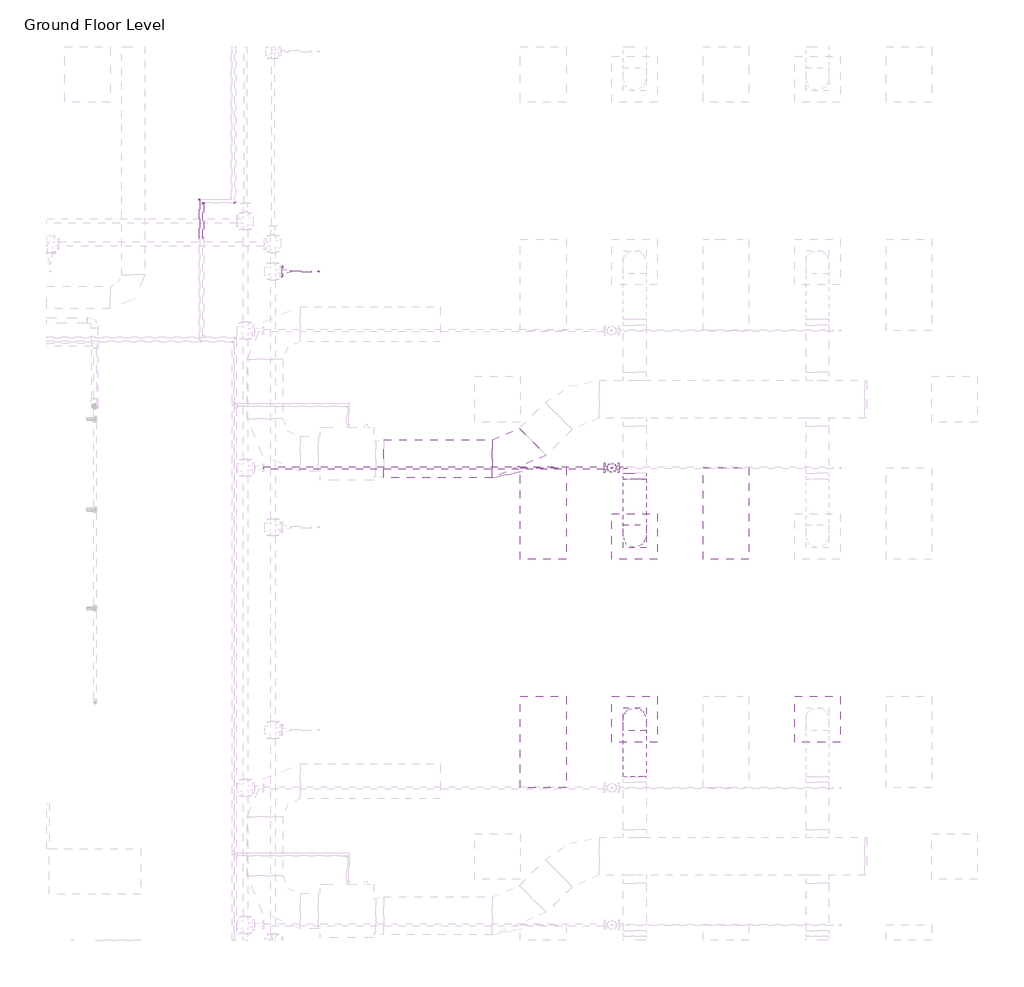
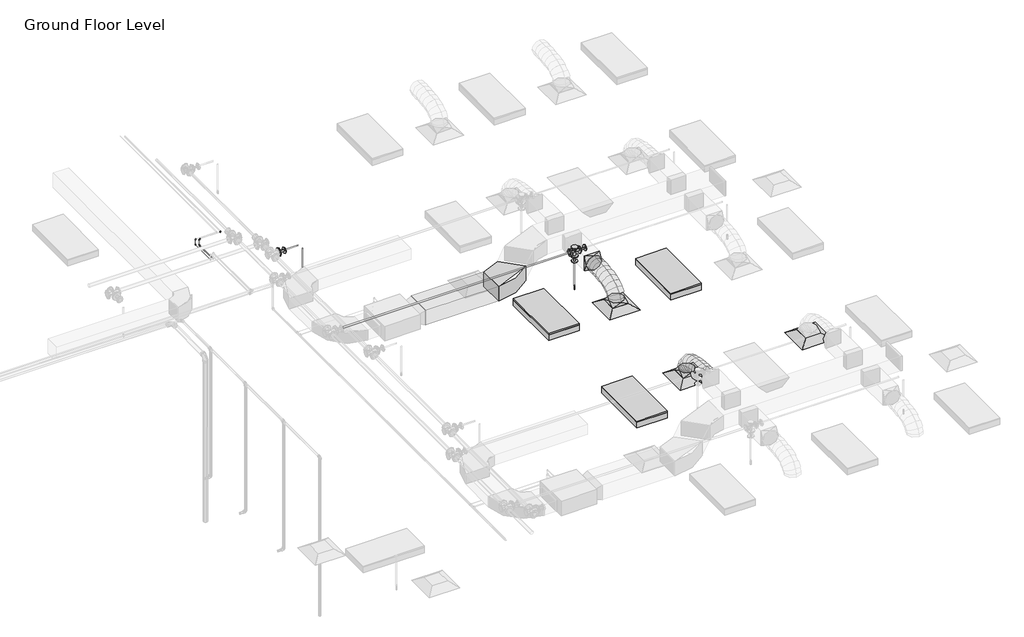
# One storey, part 68 of 74: 9 pipe fittings, 8 pipe segments, 4 duct fittings, 3 air terminals, 3 duct segments, 3 light fixtures, 2 fire suppression terminals.
"""IFC4 building model written with IfcOpenShell, lengths in millimetres."""

from ifc_helpers import new_model, si_unit, point, frame, frame_2d, origin, place, context, project, spatial, polyline, circle_curve, ellipse_curve, trimmed, segment, composite_curve, outline, extrude, transform, mapped, element, save
from ifc_brep_helpers import plane_surface, cylinder_surface, advanced_brep
from components import m_return_diffuser_600_x_600_face_300_x_300_connection_ff221211, m_rectangular_elbow_radius_1_5_w_acc56c25, m_rectangular_to_round_transition_angle_45_degree_641efff0, m_sprinkler_dry_pendent_hosted_15_mm_dry_pendent_9bda8e11, m_sprinkler_pendent_15_mm_pendent_06fcbd8e, m_troffer_light_parabolic_rectangular1_0600x1200mm_4_lamp_86473d4a, m_elbow_generic_standard_a088f956, m_elbow_generic_standard_2a704253, m_reducer_flanged_cs_class_150_standard_ccf252ad, m_reducer_flanged_cs_class_150_standard_9dfe9ec5, m_tee_round_base_flanged_cs_class_150_standard_7e5987a1

model = new_model("IFC4")

# Units and contexts
model_context = context("Model", 3, world=origin())
ifc_project = project(units=[si_unit("LENGTHUNIT", "METRE", prefix="MILLI")], contexts=[model_context])

# Site, building, storey
site = spatial("IfcSite", under=ifc_project)
building = spatial("IfcBuilding", under=site)
storey = spatial("IfcBuildingStorey", under=building, Name="Ground Floor Level", Elevation=900.0)

# Air terminals
placement = place(None, origin())
m_return_diffuser_600_x_600_face_300_x_300_connection_shape = m_return_diffuser_600_x_600_face_300_x_300_connection_ff221211(model_context)
element("IfcAirTerminal", 1, ObjectType="M_Supply Diffuser : 600 x 600 Face 300 x 300 Connection", at=placement, inside=storey, context=model_context, shape_type="MappedRepresentation", body=[
    mapped(m_return_diffuser_600_x_600_face_300_x_300_connection_shape, transform((10742.7672395, 10935.2153534, 3650.0), x_axis=(1.0, 0.0, 0.0), y_axis=(0.0, 1.0, 0.0), z_axis=(0.0, 0.0, 1.0))),
])
element("IfcAirTerminal", 2, ObjectType="M_Supply Diffuser : 600 x 600 Face 300 x 300 Connection", at=placement, inside=storey, context=model_context, shape_type="MappedRepresentation", body=[
    mapped(m_return_diffuser_600_x_600_face_300_x_300_connection_shape, transform((10742.7672395, 8535.2153534, 3650.0), x_axis=(1.0, 0.0, 0.0), y_axis=(0.0, 1.0, 0.0), z_axis=(0.0, 0.0, 1.0))),
])
element("IfcAirTerminal", 3, ObjectType="M_Supply Diffuser : 600 x 600 Face 300 x 300 Connection", at=placement, inside=storey, context=model_context, shape_type="MappedRepresentation", body=[
    mapped(m_return_diffuser_600_x_600_face_300_x_300_connection_shape, transform((13142.7672395, 8535.2153534, 3650.0), x_axis=(1.0, 0.0, 0.0), y_axis=(0.0, 1.0, 0.0), z_axis=(0.0, 0.0, 1.0))),
])

# Duct fittings
m_rectangular_elbow_radius_1_5_w_shape = m_rectangular_elbow_radius_1_5_w_acc56c25(model_context)
element("IfcDuctFitting", 4, ObjectType="M_Rectangular Elbow - Radius : 1.5 W", at=placement, inside=storey, context=model_context, shape_type="MappedRepresentation", body=[
    mapped(m_rectangular_elbow_radius_1_5_w_shape, transform((9187.6927358, 11956.1779527, 4100.0047224), x_axis=(0.9999999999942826, 0.0, -3.3815582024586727e-06), y_axis=(-9.063610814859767e-12, 0.9999999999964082, -2.680306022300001e-06), z_axis=(3.3815582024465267e-06, 2.6803060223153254e-06, 0.9999999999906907))),
])
m_rectangular_to_round_transition_angle_45_degree_shape = m_rectangular_to_round_transition_angle_45_degree_641efff0(model_context)
element("IfcDuctFitting", 5, ObjectType="M_Rectangular to Round Transition - Angle : 45 Degree", at=placement, inside=storey, context=model_context, shape_type="MappedRepresentation", body=[
    mapped(m_rectangular_to_round_transition_angle_45_degree_shape, transform((10742.7672395, 8535.2153534, 3751.6), x_axis=(0.0, 0.0, 1.0), y_axis=(-1.0, 0.0, 0.0), z_axis=(0.0, -1.0, 0.0))),
])
element("IfcDuctFitting", 6, ObjectType="M_Rectangular to Round Transition - Angle : 45 Degree", at=placement, inside=storey, context=model_context, shape_type="MappedRepresentation", body=[
    mapped(m_rectangular_to_round_transition_angle_45_degree_shape, transform((10742.7672395, 10935.2153534, 3751.6), x_axis=(0.0, 0.0, 1.0), y_axis=(-1.0, 0.0, 0.0), z_axis=(0.0, -1.0, 0.0))),
])
element("IfcDuctFitting", 7, ObjectType="M_Rectangular to Round Transition - Angle : 45 Degree", at=placement, inside=storey, context=model_context, shape_type="MappedRepresentation", body=[
    mapped(m_rectangular_to_round_transition_angle_45_degree_shape, transform((10742.7672395, 11762.5512847, 4100.0), x_axis=(0.0, -1.0, 0.0), y_axis=(1.0, 0.0, 0.0), z_axis=(0.0, 0.0, 1.0))),
])

# Duct segments
element("IfcDuctSegment", 8, ObjectType="Flex - Round", at=placement, inside=storey, context=model_context, shape_type="AdvancedBrep", body=[
    advanced_brep(
    [(10892.7672395, 8535.2153534, 3826.6), (10742.7672395, 8385.2153534, 3826.6), (10592.7672395, 8535.2153534, 3826.6), (10742.7672395, 8685.2153534, 3826.6), (10892.7672395, 8535.2153534, 3857.9377114), (10742.7672395, 8385.2153534, 3832.2944892), (10592.7672395, 8535.2153534, 3857.9377114), (10742.7672395, 8685.2153534, 3883.5809337), (10892.7672395, 8518.1994208, 3906.2505728), (10742.7672395, 8384.4614419, 3834.435049), (10592.7672395, 8518.1994208, 3906.2505728), (10742.7672395, 8651.9373998, 3978.0660967), (10892.7672395, 8471.0155405, 3968.7113131), (10742.7672395, 8366.8096412, 3857.8020236), (10592.7672395, 8471.0155405, 3968.7113131), (10742.7672395, 8575.2214397, 4079.6206026), (10892.7672395, 8399.4595883, 4016.0700639), (10742.7672395, 8330.5255327, 3881.8163788), (10592.7672395, 8399.4595883, 4016.0700639), (10742.7672395, 8468.3936439, 4150.3237489), (10892.7672395, 8309.3274403, 4050.4146682), (10742.7672395, 8265.7666771, 3906.4925606), (10592.7672395, 8309.3274403, 4050.4146682), (10742.7672395, 8352.8882035, 4194.3367758), (10892.7672395, 8206.4149725, 4073.8329691), (10742.7672395, 8179.8540485, 3926.0424542), (10592.7672395, 8206.4149725, 4073.8329691), (10742.7672395, 8232.9758965, 4221.6234841), (10892.7672395, 8096.5180607, 4088.4128097), (10742.7672395, 8081.3671584, 3939.1085462), (10592.7672395, 8096.5180607, 4088.4128097), (10742.7672395, 8111.6689631, 4237.7170733), (10892.7672395, 7985.4325811, 4096.242033), (10742.7672395, 7977.9272529, 3946.398915), (10592.7672395, 7985.4325811, 4096.242033), (10742.7672395, 7992.9379093, 4246.085151), (10892.7672395, 7878.9544096, 4099.4084821), (10742.7672395, 7876.2629165, 3949.4222102), (10592.7672395, 7878.9544096, 4099.4084821), (10742.7672395, 7881.6459027, 4249.394754), (10892.7672395, 7782.8794221, 4100.0), (10742.7672395, 7783.8029299, 4249.9971571), (10592.7672395, 7782.8794221, 4100.0), (10742.7672395, 7781.9559143, 3950.0028429)],
    [
        (0, 1, circle_curve(frame((10742.7672395, 8535.2153534, 3826.6), z_axis=(0.0, 0.0, -1.0), x_axis=(1.0, 0.0, 0.0)), 150.0)),
        (1, 2, circle_curve(frame((10742.7672395, 8535.2153534, 3826.6), z_axis=(0.0, 0.0, -1.0), x_axis=(1.0, 0.0, 0.0)), 150.0)),
        (2, 3, circle_curve(frame((10742.7672395, 8535.2153534, 3826.6), z_axis=(0.0, 0.0, -1.0), x_axis=(1.0, 0.0, 0.0)), 150.0)),
        (3, 0, circle_curve(frame((10742.7672395, 8535.2153534, 3826.6), z_axis=(0.0, 0.0, -1.0), x_axis=(1.0, 0.0, 0.0)), 150.0)),
        (0, 4),
        (4, 5, ellipse_curve(frame((10742.7672395, 8535.2153534, 3857.9377114), z_axis=(0.0, 0.16851014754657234, -0.9856999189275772), x_axis=(0.0, -0.9856999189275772, -0.1685101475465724)), 152.176131, 150.0)),
        (5, 1),
        (5, 6, ellipse_curve(frame((10742.7672395, 8535.2153534, 3857.9377114), z_axis=(0.0, 0.16851014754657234, -0.9856999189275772), x_axis=(0.0, -0.9856999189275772, -0.1685101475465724)), 152.176131, 150.0)),
        (6, 2),
        (6, 7, ellipse_curve(frame((10742.7672395, 8535.2153534, 3857.9377114), z_axis=(0.0, 0.16851014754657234, -0.9856999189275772), x_axis=(0.0, -0.9856999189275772, -0.1685101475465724)), 152.176131, 150.0)),
        (7, 3),
        (7, 4, ellipse_curve(frame((10742.7672395, 8535.2153534, 3857.9377114), z_axis=(0.0, 0.16851014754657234, -0.9856999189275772), x_axis=(0.0, -0.9856999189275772, -0.1685101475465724)), 152.176131, 150.0)),
        (4, 8),
        (8, 9, ellipse_curve(frame((10742.7672395, 8518.1994208, 3906.2505728), z_axis=(0.0, 0.4730922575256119, -0.8810128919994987), x_axis=(0.0, -0.8810128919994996, -0.47309225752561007)), 151.8002519, 150.0)),
        (9, 5),
        (9, 10, ellipse_curve(frame((10742.7672395, 8518.1994208, 3906.2505728), z_axis=(0.0, 0.4730922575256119, -0.8810128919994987), x_axis=(0.0, -0.8810128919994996, -0.47309225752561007)), 151.8002519, 150.0)),
        (10, 6),
        (10, 11, ellipse_curve(frame((10742.7672395, 8518.1994208, 3906.2505728), z_axis=(0.0, 0.4730922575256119, -0.8810128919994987), x_axis=(0.0, -0.8810128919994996, -0.47309225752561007)), 151.8002519, 150.0)),
        (11, 7),
        (11, 8, ellipse_curve(frame((10742.7672395, 8518.1994208, 3906.2505728), z_axis=(0.0, 0.4730922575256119, -0.8810128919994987), x_axis=(0.0, -0.8810128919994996, -0.47309225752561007)), 151.8002519, 150.0)),
        (8, 12),
        (12, 13, ellipse_curve(frame((10742.7672395, 8471.0155405, 3968.7113131), z_axis=(0.0, 0.7287877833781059, -0.6847396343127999), x_axis=(0.0, -0.6847396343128, -0.7287877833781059)), 152.1832446, 150.0)),
        (13, 9),
        (13, 14, ellipse_curve(frame((10742.7672395, 8471.0155405, 3968.7113131), z_axis=(0.0, 0.7287877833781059, -0.6847396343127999), x_axis=(0.0, -0.6847396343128, -0.7287877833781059)), 152.1832446, 150.0)),
        (14, 10),
        (14, 15, ellipse_curve(frame((10742.7672395, 8471.0155405, 3968.7113131), z_axis=(0.0, 0.7287877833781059, -0.6847396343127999), x_axis=(0.0, -0.6847396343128, -0.7287877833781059)), 152.1832446, 150.0)),
        (15, 11),
        (15, 12, ellipse_curve(frame((10742.7672395, 8471.0155405, 3968.7113131), z_axis=(0.0, 0.7287877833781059, -0.6847396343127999), x_axis=(0.0, -0.6847396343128, -0.7287877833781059)), 152.1832446, 150.0)),
        (12, 16),
        (16, 17, ellipse_curve(frame((10742.7672395, 8399.4595883, 4016.0700639), z_axis=(0.0, 0.8895859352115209, -0.4567678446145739), x_axis=(0.0, -0.4567678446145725, -0.8895859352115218)), 150.91705, 150.0)),
        (17, 13),
        (17, 18, ellipse_curve(frame((10742.7672395, 8399.4595883, 4016.0700639), z_axis=(0.0, 0.8895859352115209, -0.4567678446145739), x_axis=(0.0, -0.4567678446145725, -0.8895859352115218)), 150.91705, 150.0)),
        (18, 14),
        (18, 19, ellipse_curve(frame((10742.7672395, 8399.4595883, 4016.0700639), z_axis=(0.0, 0.8895859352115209, -0.4567678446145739), x_axis=(0.0, -0.4567678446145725, -0.8895859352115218)), 150.91705, 150.0)),
        (19, 15),
        (19, 16, ellipse_curve(frame((10742.7672395, 8399.4595883, 4016.0700639), z_axis=(0.0, 0.8895859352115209, -0.4567678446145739), x_axis=(0.0, -0.4567678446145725, -0.8895859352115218)), 150.91705, 150.0)),
        (16, 20),
        (20, 21, ellipse_curve(frame((10742.7672395, 8309.3274403, 4050.4146682), z_axis=(0.0, 0.9571203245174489, -0.2896906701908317), x_axis=(0.0, -0.2896906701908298, -0.9571203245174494)), 150.369921, 150.0)),
        (21, 17),
        (21, 22, ellipse_curve(frame((10742.7672395, 8309.3274403, 4050.4146682), z_axis=(0.0, 0.9571203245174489, -0.2896906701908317), x_axis=(0.0, -0.2896906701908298, -0.9571203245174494)), 150.369921, 150.0)),
        (22, 18),
        (22, 23, ellipse_curve(frame((10742.7672395, 8309.3274403, 4050.4146682), z_axis=(0.0, 0.9571203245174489, -0.2896906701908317), x_axis=(0.0, -0.2896906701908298, -0.9571203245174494)), 150.369921, 150.0)),
        (23, 19),
        (23, 20, ellipse_curve(frame((10742.7672395, 8309.3274403, 4050.4146682), z_axis=(0.0, 0.9571203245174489, -0.2896906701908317), x_axis=(0.0, -0.2896906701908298, -0.9571203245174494)), 150.369921, 150.0)),
        (20, 24),
        (24, 25, ellipse_curve(frame((10742.7672395, 8206.4149725, 4073.8329691), z_axis=(0.0, 0.9842313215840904, -0.1768861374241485), x_axis=(0.0, -0.17688613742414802, -0.9842313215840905)), 150.1583131, 150.0)),
        (25, 21),
        (25, 26, ellipse_curve(frame((10742.7672395, 8206.4149725, 4073.8329691), z_axis=(0.0, 0.9842313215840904, -0.1768861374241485), x_axis=(0.0, -0.17688613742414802, -0.9842313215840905)), 150.1583131, 150.0)),
        (26, 22),
        (26, 27, ellipse_curve(frame((10742.7672395, 8206.4149725, 4073.8329691), z_axis=(0.0, 0.9842313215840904, -0.1768861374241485), x_axis=(0.0, -0.17688613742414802, -0.9842313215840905)), 150.1583131, 150.0)),
        (27, 23),
        (27, 24, ellipse_curve(frame((10742.7672395, 8206.4149725, 4073.8329691), z_axis=(0.0, 0.9842313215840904, -0.1768861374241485), x_axis=(0.0, -0.17688613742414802, -0.9842313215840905)), 150.1583131, 150.0)),
        (24, 28),
        (28, 29, ellipse_curve(frame((10742.7672395, 8096.5180607, 4088.4128097), z_axis=(0.0, 0.9948906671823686, -0.10095821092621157), x_axis=(0.0, -0.100958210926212, -0.9948906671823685)), 150.0710264, 150.0)),
        (29, 25),
        (29, 30, ellipse_curve(frame((10742.7672395, 8096.5180607, 4088.4128097), z_axis=(0.0, 0.9948906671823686, -0.10095821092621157), x_axis=(0.0, -0.100958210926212, -0.9948906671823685)), 150.0710264, 150.0)),
        (30, 26),
        (30, 31, ellipse_curve(frame((10742.7672395, 8096.5180607, 4088.4128097), z_axis=(0.0, 0.9948906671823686, -0.10095821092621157), x_axis=(0.0, -0.100958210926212, -0.9948906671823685)), 150.0710264, 150.0)),
        (31, 27),
        (31, 28, ellipse_curve(frame((10742.7672395, 8096.5180607, 4088.4128097), z_axis=(0.0, 0.9948906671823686, -0.10095821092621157), x_axis=(0.0, -0.100958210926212, -0.9948906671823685)), 150.0710264, 150.0)),
        (28, 32),
        (32, 33, ellipse_curve(frame((10742.7672395, 7985.4325811, 4096.242033), z_axis=(0.0, 0.9987479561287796, -0.05002519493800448), x_axis=(0.0, -0.050025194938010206, -0.9987479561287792)), 150.0309634, 150.0)),
        (33, 29),
        (33, 34, ellipse_curve(frame((10742.7672395, 7985.4325811, 4096.242033), z_axis=(0.0, 0.9987479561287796, -0.05002519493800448), x_axis=(0.0, -0.050025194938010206, -0.9987479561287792)), 150.0309634, 150.0)),
        (34, 30),
        (34, 35, ellipse_curve(frame((10742.7672395, 7985.4325811, 4096.242033), z_axis=(0.0, 0.9987479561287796, -0.05002519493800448), x_axis=(0.0, -0.050025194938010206, -0.9987479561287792)), 150.0309634, 150.0)),
        (35, 31),
        (35, 32, ellipse_curve(frame((10742.7672395, 7985.4325811, 4096.242033), z_axis=(0.0, 0.9987479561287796, -0.05002519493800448), x_axis=(0.0, -0.050025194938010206, -0.9987479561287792)), 150.0309634, 150.0)),
        (32, 36),
        (36, 37, ellipse_curve(frame((10742.7672395, 7878.9544096, 4099.4084821), z_axis=(0.0, 0.9998390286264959, -0.017942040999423), x_axis=(0.0, -0.01794204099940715, -0.9998390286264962)), 150.0104193, 150.0)),
        (37, 33),
        (37, 38, ellipse_curve(frame((10742.7672395, 7878.9544096, 4099.4084821), z_axis=(0.0, 0.9998390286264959, -0.017942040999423), x_axis=(0.0, -0.01794204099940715, -0.9998390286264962)), 150.0104193, 150.0)),
        (38, 34),
        (38, 39, ellipse_curve(frame((10742.7672395, 7878.9544096, 4099.4084821), z_axis=(0.0, 0.9998390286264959, -0.017942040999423), x_axis=(0.0, -0.01794204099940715, -0.9998390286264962)), 150.0104193, 150.0)),
        (39, 35),
        (39, 36, ellipse_curve(frame((10742.7672395, 7878.9544096, 4099.4084821), z_axis=(0.0, 0.9998390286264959, -0.017942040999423), x_axis=(0.0, -0.01794204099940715, -0.9998390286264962)), 150.0104193, 150.0)),
        (40, 41, circle_curve(frame((10742.7672395, 7782.8794221, 4100.0), z_axis=(0.0, -0.9999810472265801, 0.006156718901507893), x_axis=(1.0, 0.0, 0.0)), 150.0)),
        (41, 42, circle_curve(frame((10742.7672395, 7782.8794221, 4100.0), z_axis=(0.0, -0.9999810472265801, 0.006156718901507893), x_axis=(1.0, 0.0, 0.0)), 150.0)),
        (42, 43, circle_curve(frame((10742.7672395, 7782.8794221, 4100.0), z_axis=(0.0, -0.9999810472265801, 0.006156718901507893), x_axis=(1.0, 0.0, 0.0)), 150.0)),
        (43, 40, circle_curve(frame((10742.7672395, 7782.8794221, 4100.0), z_axis=(0.0, -0.9999810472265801, 0.006156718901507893), x_axis=(1.0, 0.0, 0.0)), 150.0)),
        (36, 40),
        (43, 37),
        (42, 38),
        (41, 39),
    ],
    [
        plane_surface(frame((10742.7672395, 8385.2153534, 3826.6), z_axis=(0.0, 0.0, -1.0), x_axis=(1.0, 0.0, 0.0))),
        cylinder_surface(frame((10742.7672395, 8535.2153534, 3826.6), z_axis=(0.0, 0.0, -1.0), x_axis=(1.0, 0.0, 0.0)), 150.0),
        cylinder_surface(frame((10742.7672395, 8535.2153534, 3857.9377114), z_axis=(0.0, 0.3322008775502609, -0.9432086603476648), x_axis=(1.0, 0.0, 0.0)), 150.0),
        cylinder_surface(frame((10742.7672395, 8518.1994208, 3906.2505728), z_axis=(0.0, 0.6027625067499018, -0.7979206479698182), x_axis=(1.0, 0.0, 0.0)), 150.0),
        cylinder_surface(frame((10742.7672395, 8471.0155405, 3968.7113131), z_axis=(0.0, 0.8339024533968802, -0.5519118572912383), x_axis=(1.0, 0.0, 0.0)), 150.0),
        cylinder_surface(frame((10742.7672395, 8399.4595883, 4016.0700639), z_axis=(0.0, 0.934458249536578, -0.35607271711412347), x_axis=(1.0, 0.0, 0.0)), 150.0),
        cylinder_surface(frame((10742.7672395, 8309.3274403, 4050.4146682), z_axis=(0.0, 0.9750732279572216, -0.2218833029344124), x_axis=(1.0, 0.0, 0.0)), 150.0),
        cylinder_surface(frame((10742.7672395, 8206.4149725, 4073.8329691), z_axis=(0.0, 0.9913140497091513, -0.13151598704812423), x_axis=(1.0, 0.0, 0.0)), 150.0),
        cylinder_surface(frame((10742.7672395, 8096.5180607, 4088.4128097), z_axis=(0.0, 0.9975255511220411, -0.07030487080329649), x_axis=(1.0, 0.0, 0.0)), 150.0),
        cylinder_surface(frame((10742.7672395, 7985.4325811, 4096.242033), z_axis=(0.0, 0.9995581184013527, -0.029724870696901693), x_axis=(1.0, 0.0, 0.0)), 150.0),
        plane_surface(frame((10742.7672395, 7781.9559143, 3950.0028429), z_axis=(0.0, -0.9999810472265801, 0.0061567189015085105), x_axis=(1.0, 0.0, 0.0))),
        cylinder_surface(frame((10742.7672395, 7878.9544096, 4099.4084821), z_axis=(0.0, 0.9999810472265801, -0.006156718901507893), x_axis=(1.0, 0.0, 0.0)), 150.0),
    ],
    [
        (0, [[1, 2, 3, 4]]),
        (1, [[-1, 5, 6, 7]]),
        (1, [[-2, -7, 8, 9]]),
        (1, [[-3, -9, 10, 11]]),
        (1, [[-4, -11, 12, -5]]),
        (2, [[-6, 13, 14, 15]]),
        (2, [[-8, -15, 16, 17]]),
        (2, [[-10, -17, 18, 19]]),
        (2, [[-12, -19, 20, -13]]),
        (3, [[-14, 21, 22, 23]]),
        (3, [[-16, -23, 24, 25]]),
        (3, [[-18, -25, 26, 27]]),
        (3, [[-20, -27, 28, -21]]),
        (4, [[-22, 29, 30, 31]]),
        (4, [[-24, -31, 32, 33]]),
        (4, [[-26, -33, 34, 35]]),
        (4, [[-28, -35, 36, -29]]),
        (5, [[-30, 37, 38, 39]]),
        (5, [[-32, -39, 40, 41]]),
        (5, [[-34, -41, 42, 43]]),
        (5, [[-36, -43, 44, -37]]),
        (6, [[-38, 45, 46, 47]]),
        (6, [[-40, -47, 48, 49]]),
        (6, [[-42, -49, 50, 51]]),
        (6, [[-44, -51, 52, -45]]),
        (7, [[-46, 53, 54, 55]]),
        (7, [[-48, -55, 56, 57]]),
        (7, [[-50, -57, 58, 59]]),
        (7, [[-52, -59, 60, -53]]),
        (8, [[-54, 61, 62, 63]]),
        (8, [[-56, -63, 64, 65]]),
        (8, [[-58, -65, 66, 67]]),
        (8, [[-60, -67, 68, -61]]),
        (9, [[-62, 69, 70, 71]]),
        (9, [[-64, -71, 72, 73]]),
        (9, [[-66, -73, 74, 75]]),
        (9, [[-68, -75, 76, -69]]),
        (10, [[77, 78, 79, 80]]),
        (11, [[-70, 81, -80, 82]]),
        (11, [[-72, -82, -79, 83]]),
        (11, [[-74, -83, -78, 84]]),
        (11, [[-76, -84, -77, -81]]),
    ],
),
])
element("IfcDuctSegment", 9, ObjectType="Flex - Round", at=placement, inside=storey, context=model_context, shape_type="AdvancedBrep", body=[
    advanced_brep(
    [(10892.7672395, 10935.2153534, 3826.6), (10742.7672395, 10785.2153534, 3826.6), (10592.7672395, 10935.2153534, 3826.6), (10742.7672395, 11085.2153534, 3826.6), (10892.7672395, 10935.2153534, 3857.9377114), (10742.7672395, 10785.2153534, 3883.5809337), (10592.7672395, 10935.2153534, 3857.9377114), (10742.7672395, 11085.2153534, 3832.2944892), (10892.7672395, 10952.2312859, 3906.2505728), (10742.7672395, 10818.493307, 3978.0660967), (10592.7672395, 10952.2312859, 3906.2505728), (10742.7672395, 11085.9692649, 3834.435049), (10892.7672395, 10999.4151663, 3968.7113131), (10742.7672395, 10895.209267, 4079.6206026), (10592.7672395, 10999.4151663, 3968.7113131), (10742.7672395, 11103.6210655, 3857.8020236), (10892.7672395, 11070.9711184, 4016.0700639), (10742.7672395, 11002.0370628, 4150.3237489), (10592.7672395, 11070.9711184, 4016.0700639), (10742.7672395, 11139.9051741, 3881.8163788), (10892.7672395, 11161.1032664, 4050.4146682), (10742.7672395, 11117.5425033, 4194.3367758), (10592.7672395, 11161.1032664, 4050.4146682), (10742.7672395, 11204.6640296, 3906.4925606), (10892.7672395, 11264.0157343, 4073.8329691), (10742.7672395, 11237.4548103, 4221.6234841), (10592.7672395, 11264.0157343, 4073.8329691), (10742.7672395, 11290.5766583, 3926.0424542), (10892.7672395, 11373.912646, 4088.4128097), (10742.7672395, 11358.7617437, 4237.7170733), (10592.7672395, 11373.912646, 4088.4128097), (10742.7672395, 11389.0635483, 3939.1085462), (10892.7672395, 11484.9981256, 4096.242033), (10742.7672395, 11477.4927975, 4246.085151), (10592.7672395, 11484.9981256, 4096.242033), (10742.7672395, 11492.5034538, 3946.398915), (10892.7672395, 11591.4762972, 4099.4084821), (10742.7672395, 11588.7848041, 4249.394754), (10592.7672395, 11591.4762972, 4099.4084821), (10742.7672395, 11594.1677903, 3949.4222102), (10892.7672395, 11687.5512847, 4100.0), (10742.7672395, 11688.4747925, 3950.0028429), (10592.7672395, 11687.5512847, 4100.0), (10742.7672395, 11686.6277768, 4249.9971571)],
    [
        (0, 1, circle_curve(frame((10742.7672395, 10935.2153534, 3826.6), z_axis=(0.0, 0.0, -1.0), x_axis=(1.0, 0.0, 0.0)), 150.0)),
        (1, 2, circle_curve(frame((10742.7672395, 10935.2153534, 3826.6), z_axis=(0.0, 0.0, -1.0), x_axis=(1.0, 0.0, 0.0)), 150.0)),
        (2, 3, circle_curve(frame((10742.7672395, 10935.2153534, 3826.6), z_axis=(0.0, 0.0, -1.0), x_axis=(1.0, 0.0, 0.0)), 150.0)),
        (3, 0, circle_curve(frame((10742.7672395, 10935.2153534, 3826.6), z_axis=(0.0, 0.0, -1.0), x_axis=(1.0, 0.0, 0.0)), 150.0)),
        (0, 4),
        (4, 5, ellipse_curve(frame((10742.7672395, 10935.2153534, 3857.9377114), z_axis=(0.0, -0.16851014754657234, -0.9856999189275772), x_axis=(0.0, 0.9856999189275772, -0.1685101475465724)), 152.176131, 150.0)),
        (5, 1),
        (5, 6, ellipse_curve(frame((10742.7672395, 10935.2153534, 3857.9377114), z_axis=(0.0, -0.16851014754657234, -0.9856999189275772), x_axis=(0.0, 0.9856999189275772, -0.1685101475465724)), 152.176131, 150.0)),
        (6, 2),
        (6, 7, ellipse_curve(frame((10742.7672395, 10935.2153534, 3857.9377114), z_axis=(0.0, -0.16851014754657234, -0.9856999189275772), x_axis=(0.0, 0.9856999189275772, -0.1685101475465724)), 152.176131, 150.0)),
        (7, 3),
        (7, 4, ellipse_curve(frame((10742.7672395, 10935.2153534, 3857.9377114), z_axis=(0.0, -0.16851014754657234, -0.9856999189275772), x_axis=(0.0, 0.9856999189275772, -0.1685101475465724)), 152.176131, 150.0)),
        (4, 8),
        (8, 9, ellipse_curve(frame((10742.7672395, 10952.2312859, 3906.2505728), z_axis=(0.0, -0.47309225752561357, -0.8810128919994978), x_axis=(0.0, 0.8810128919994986, -0.47309225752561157)), 151.8002519, 150.0)),
        (9, 5),
        (9, 10, ellipse_curve(frame((10742.7672395, 10952.2312859, 3906.2505728), z_axis=(0.0, -0.47309225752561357, -0.8810128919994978), x_axis=(0.0, 0.8810128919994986, -0.47309225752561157)), 151.8002519, 150.0)),
        (10, 6),
        (10, 11, ellipse_curve(frame((10742.7672395, 10952.2312859, 3906.2505728), z_axis=(0.0, -0.47309225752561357, -0.8810128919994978), x_axis=(0.0, 0.8810128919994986, -0.47309225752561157)), 151.8002519, 150.0)),
        (11, 7),
        (11, 8, ellipse_curve(frame((10742.7672395, 10952.2312859, 3906.2505728), z_axis=(0.0, -0.47309225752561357, -0.8810128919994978), x_axis=(0.0, 0.8810128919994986, -0.47309225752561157)), 151.8002519, 150.0)),
        (8, 12),
        (12, 13, ellipse_curve(frame((10742.7672395, 10999.4151663, 3968.7113131), z_axis=(0.0, -0.7287877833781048, -0.6847396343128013), x_axis=(0.0, 0.6847396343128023, -0.7287877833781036)), 152.1832446, 150.0)),
        (13, 9),
        (13, 14, ellipse_curve(frame((10742.7672395, 10999.4151663, 3968.7113131), z_axis=(0.0, -0.7287877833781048, -0.6847396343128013), x_axis=(0.0, 0.6847396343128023, -0.7287877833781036)), 152.1832446, 150.0)),
        (14, 10),
        (14, 15, ellipse_curve(frame((10742.7672395, 10999.4151663, 3968.7113131), z_axis=(0.0, -0.7287877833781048, -0.6847396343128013), x_axis=(0.0, 0.6847396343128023, -0.7287877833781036)), 152.1832446, 150.0)),
        (15, 11),
        (15, 12, ellipse_curve(frame((10742.7672395, 10999.4151663, 3968.7113131), z_axis=(0.0, -0.7287877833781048, -0.6847396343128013), x_axis=(0.0, 0.6847396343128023, -0.7287877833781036)), 152.1832446, 150.0)),
        (12, 16),
        (16, 17, ellipse_curve(frame((10742.7672395, 11070.9711184, 4016.0700639), z_axis=(0.0, -0.8895859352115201, -0.45676784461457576), x_axis=(0.0, 0.45676784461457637, -0.8895859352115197)), 150.91705, 150.0)),
        (17, 13),
        (17, 18, ellipse_curve(frame((10742.7672395, 11070.9711184, 4016.0700639), z_axis=(0.0, -0.8895859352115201, -0.45676784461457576), x_axis=(0.0, 0.45676784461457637, -0.8895859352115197)), 150.91705, 150.0)),
        (18, 14),
        (18, 19, ellipse_curve(frame((10742.7672395, 11070.9711184, 4016.0700639), z_axis=(0.0, -0.8895859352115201, -0.45676784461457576), x_axis=(0.0, 0.45676784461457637, -0.8895859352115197)), 150.91705, 150.0)),
        (19, 15),
        (19, 16, ellipse_curve(frame((10742.7672395, 11070.9711184, 4016.0700639), z_axis=(0.0, -0.8895859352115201, -0.45676784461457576), x_axis=(0.0, 0.45676784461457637, -0.8895859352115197)), 150.91705, 150.0)),
        (16, 20),
        (20, 21, ellipse_curve(frame((10742.7672395, 11161.1032664, 4050.4146682), z_axis=(0.0, -0.9571203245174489, -0.2896906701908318), x_axis=(0.0, 0.28969067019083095, -0.9571203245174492)), 150.369921, 150.0)),
        (21, 17),
        (21, 22, ellipse_curve(frame((10742.7672395, 11161.1032664, 4050.4146682), z_axis=(0.0, -0.9571203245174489, -0.2896906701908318), x_axis=(0.0, 0.28969067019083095, -0.9571203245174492)), 150.369921, 150.0)),
        (22, 18),
        (22, 23, ellipse_curve(frame((10742.7672395, 11161.1032664, 4050.4146682), z_axis=(0.0, -0.9571203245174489, -0.2896906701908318), x_axis=(0.0, 0.28969067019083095, -0.9571203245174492)), 150.369921, 150.0)),
        (23, 19),
        (23, 20, ellipse_curve(frame((10742.7672395, 11161.1032664, 4050.4146682), z_axis=(0.0, -0.9571203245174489, -0.2896906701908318), x_axis=(0.0, 0.28969067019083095, -0.9571203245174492)), 150.369921, 150.0)),
        (20, 24),
        (24, 25, ellipse_curve(frame((10742.7672395, 11264.0157343, 4073.8329691), z_axis=(0.0, -0.9842313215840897, -0.17688613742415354), x_axis=(0.0, 0.1768861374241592, -0.9842313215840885)), 150.1583131, 150.0)),
        (25, 21),
        (25, 26, ellipse_curve(frame((10742.7672395, 11264.0157343, 4073.8329691), z_axis=(0.0, -0.9842313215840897, -0.17688613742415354), x_axis=(0.0, 0.1768861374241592, -0.9842313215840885)), 150.1583131, 150.0)),
        (26, 22),
        (26, 27, ellipse_curve(frame((10742.7672395, 11264.0157343, 4073.8329691), z_axis=(0.0, -0.9842313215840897, -0.17688613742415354), x_axis=(0.0, 0.1768861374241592, -0.9842313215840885)), 150.1583131, 150.0)),
        (27, 23),
        (27, 24, ellipse_curve(frame((10742.7672395, 11264.0157343, 4073.8329691), z_axis=(0.0, -0.9842313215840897, -0.17688613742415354), x_axis=(0.0, 0.1768861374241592, -0.9842313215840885)), 150.1583131, 150.0)),
        (24, 28),
        (28, 29, ellipse_curve(frame((10742.7672395, 11373.912646, 4088.4128097), z_axis=(0.0, -0.9948906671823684, -0.10095821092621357), x_axis=(0.0, 0.10095821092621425, -0.9948906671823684)), 150.0710264, 150.0)),
        (29, 25),
        (29, 30, ellipse_curve(frame((10742.7672395, 11373.912646, 4088.4128097), z_axis=(0.0, -0.9948906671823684, -0.10095821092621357), x_axis=(0.0, 0.10095821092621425, -0.9948906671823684)), 150.0710264, 150.0)),
        (30, 26),
        (30, 31, ellipse_curve(frame((10742.7672395, 11373.912646, 4088.4128097), z_axis=(0.0, -0.9948906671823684, -0.10095821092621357), x_axis=(0.0, 0.10095821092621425, -0.9948906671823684)), 150.0710264, 150.0)),
        (31, 27),
        (31, 28, ellipse_curve(frame((10742.7672395, 11373.912646, 4088.4128097), z_axis=(0.0, -0.9948906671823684, -0.10095821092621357), x_axis=(0.0, 0.10095821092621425, -0.9948906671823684)), 150.0710264, 150.0)),
        (28, 32),
        (32, 33, ellipse_curve(frame((10742.7672395, 11484.9981256, 4096.242033), z_axis=(0.0, -0.9987479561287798, -0.05002519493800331), x_axis=(0.0, 0.050025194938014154, -0.9987479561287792)), 150.0309634, 150.0)),
        (33, 29),
        (33, 34, ellipse_curve(frame((10742.7672395, 11484.9981256, 4096.242033), z_axis=(0.0, -0.9987479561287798, -0.05002519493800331), x_axis=(0.0, 0.050025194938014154, -0.9987479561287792)), 150.0309634, 150.0)),
        (34, 30),
        (34, 35, ellipse_curve(frame((10742.7672395, 11484.9981256, 4096.242033), z_axis=(0.0, -0.9987479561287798, -0.05002519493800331), x_axis=(0.0, 0.050025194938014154, -0.9987479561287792)), 150.0309634, 150.0)),
        (35, 31),
        (35, 32, ellipse_curve(frame((10742.7672395, 11484.9981256, 4096.242033), z_axis=(0.0, -0.9987479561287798, -0.05002519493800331), x_axis=(0.0, 0.050025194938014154, -0.9987479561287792)), 150.0309634, 150.0)),
        (32, 36),
        (36, 37, ellipse_curve(frame((10742.7672395, 11591.4762972, 4099.4084821), z_axis=(0.0, -0.9998390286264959, -0.01794204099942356), x_axis=(-1.8187895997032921e-12, 0.017942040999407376, -0.9998390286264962)), 150.0104193, 150.0)),
        (37, 33),
        (37, 38, ellipse_curve(frame((10742.7672395, 11591.4762972, 4099.4084821), z_axis=(0.0, -0.9998390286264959, -0.01794204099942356), x_axis=(-1.8187895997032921e-12, 0.017942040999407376, -0.9998390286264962)), 150.0104193, 150.0)),
        (38, 34),
        (38, 39, ellipse_curve(frame((10742.7672395, 11591.4762972, 4099.4084821), z_axis=(0.0, -0.9998390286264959, -0.01794204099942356), x_axis=(-1.8187895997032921e-12, 0.017942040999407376, -0.9998390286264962)), 150.0104193, 150.0)),
        (39, 35),
        (39, 36, ellipse_curve(frame((10742.7672395, 11591.4762972, 4099.4084821), z_axis=(0.0, -0.9998390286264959, -0.01794204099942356), x_axis=(-1.8187895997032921e-12, 0.017942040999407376, -0.9998390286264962)), 150.0104193, 150.0)),
        (40, 41, circle_curve(frame((10742.7672395, 11687.5512847, 4100.0), z_axis=(0.0, 0.9999810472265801, 0.006156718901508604), x_axis=(1.0, 0.0, 0.0)), 150.0)),
        (41, 42, circle_curve(frame((10742.7672395, 11687.5512847, 4100.0), z_axis=(0.0, 0.9999810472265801, 0.006156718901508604), x_axis=(1.0, 0.0, 0.0)), 150.0)),
        (42, 43, circle_curve(frame((10742.7672395, 11687.5512847, 4100.0), z_axis=(0.0, 0.9999810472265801, 0.006156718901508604), x_axis=(1.0, 0.0, 0.0)), 150.0)),
        (43, 40, circle_curve(frame((10742.7672395, 11687.5512847, 4100.0), z_axis=(0.0, 0.9999810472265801, 0.006156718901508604), x_axis=(1.0, 0.0, 0.0)), 150.0)),
        (36, 40),
        (43, 37),
        (42, 38),
        (41, 39),
    ],
    [
        plane_surface(frame((10742.7672395, 10785.2153534, 3826.6), z_axis=(0.0, 0.0, -1.0), x_axis=(1.0, 0.0, 0.0))),
        cylinder_surface(frame((10742.7672395, 10935.2153534, 3826.6), z_axis=(0.0, 0.0, -1.0), x_axis=(1.0, 0.0, 0.0)), 150.0),
        cylinder_surface(frame((10742.7672395, 10935.2153534, 3857.9377114), z_axis=(0.0, -0.3322008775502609, -0.9432086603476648), x_axis=(1.0, 0.0, 0.0)), 150.0),
        cylinder_surface(frame((10742.7672395, 10952.2312859, 3906.2505728), z_axis=(0.0, -0.6027625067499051, -0.7979206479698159), x_axis=(1.0, 0.0, 0.0)), 150.0),
        cylinder_surface(frame((10742.7672395, 10999.4151663, 3968.7113131), z_axis=(0.0, -0.833902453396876, -0.5519118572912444), x_axis=(1.0, 0.0, 0.0)), 150.0),
        cylinder_surface(frame((10742.7672395, 11070.9711184, 4016.0700639), z_axis=(0.0, -0.9344582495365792, -0.35607271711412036), x_axis=(1.0, 0.0, 0.0)), 150.0),
        cylinder_surface(frame((10742.7672395, 11161.1032664, 4050.4146682), z_axis=(0.0, -0.9750732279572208, -0.22188330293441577), x_axis=(1.0, 0.0, 0.0)), 150.0),
        cylinder_surface(frame((10742.7672395, 11264.0157343, 4073.8329691), z_axis=(0.0, -0.9913140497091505, -0.131515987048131), x_axis=(1.0, 0.0, 0.0)), 150.0),
        cylinder_surface(frame((10742.7672395, 11373.912646, 4088.4128097), z_axis=(0.0, -0.9975255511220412, -0.07030487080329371), x_axis=(1.0, 0.0, 0.0)), 150.0),
        cylinder_surface(frame((10742.7672395, 11484.9981256, 4096.242033), z_axis=(0.0, -0.9995581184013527, -0.029724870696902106), x_axis=(1.0, 0.0, 0.0)), 150.0),
        plane_surface(frame((10742.7672395, 11686.6277768, 4249.9971571), z_axis=(0.0, 0.9999810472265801, 0.0061567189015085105), x_axis=(1.0, 0.0, 0.0))),
        cylinder_surface(frame((10742.7672395, 11591.4762972, 4099.4084821), z_axis=(0.0, -0.9999810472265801, -0.006156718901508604), x_axis=(1.0, 0.0, 0.0)), 150.0),
    ],
    [
        (0, [[1, 2, 3, 4]]),
        (1, [[-1, 5, 6, 7]]),
        (1, [[-2, -7, 8, 9]]),
        (1, [[-3, -9, 10, 11]]),
        (1, [[-4, -11, 12, -5]]),
        (2, [[-6, 13, 14, 15]]),
        (2, [[-8, -15, 16, 17]]),
        (2, [[-10, -17, 18, 19]]),
        (2, [[-12, -19, 20, -13]]),
        (3, [[-14, 21, 22, 23]]),
        (3, [[-16, -23, 24, 25]]),
        (3, [[-18, -25, 26, 27]]),
        (3, [[-20, -27, 28, -21]]),
        (4, [[-22, 29, 30, 31]]),
        (4, [[-24, -31, 32, 33]]),
        (4, [[-26, -33, 34, 35]]),
        (4, [[-28, -35, 36, -29]]),
        (5, [[-30, 37, 38, 39]]),
        (5, [[-32, -39, 40, 41]]),
        (5, [[-34, -41, 42, 43]]),
        (5, [[-36, -43, 44, -37]]),
        (6, [[-38, 45, 46, 47]]),
        (6, [[-40, -47, 48, 49]]),
        (6, [[-42, -49, 50, 51]]),
        (6, [[-44, -51, 52, -45]]),
        (7, [[-46, 53, 54, 55]]),
        (7, [[-48, -55, 56, 57]]),
        (7, [[-50, -57, 58, 59]]),
        (7, [[-52, -59, 60, -53]]),
        (8, [[-54, 61, 62, 63]]),
        (8, [[-56, -63, 64, 65]]),
        (8, [[-58, -65, 66, 67]]),
        (8, [[-60, -67, 68, -61]]),
        (9, [[-62, 69, 70, 71]]),
        (9, [[-64, -71, 72, 73]]),
        (9, [[-66, -73, 74, 75]]),
        (9, [[-68, -75, 76, -69]]),
        (10, [[77, 78, 79, 80]]),
        (11, [[-70, 81, -80, 82]]),
        (11, [[-72, -82, -79, 83]]),
        (11, [[-74, -83, -78, 84]]),
        (11, [[-76, -84, -77, -81]]),
    ],
),
])
element("IfcDuctSegment", 10, ObjectType="Radius Elbows / Taps", at=placement, inside=storey, context=model_context, shape_type="SweptSolid", body=[
    extrude(outline(polyline([(7447.693178, 11706.1779527), (7447.693178, 12206.1779527), (8877.032564, 12206.1779527), (8877.032564, 11706.1779527), (7447.693178, 11706.1779527)])), frame((0.0, 0.0, 3950.0057729), z_axis=(0.0, 0.0, 1.0), x_axis=(1.0, 0.0, 0.0)), (0.0, 0.0, 1.0), 300.0),
])

# Fire suppression terminals
m_sprinkler_dry_pendent_hosted_15_mm_dry_pendent_shape = m_sprinkler_dry_pendent_hosted_15_mm_dry_pendent_9bda8e11(model_context)
element("IfcFireSuppressionTerminal", 11, ObjectType="M_Sprinkler - Dry - Pendent - Hosted : 15 mm Dry Pendent", at=placement, inside=storey, context=model_context, shape_type="MappedRepresentation", body=[
    mapped(m_sprinkler_dry_pendent_hosted_15_mm_dry_pendent_shape, transform((10442.7672395, 11835.2153534, 3650.0), x_axis=(1.0, 0.0, 0.0), y_axis=(0.0, -1.0, 0.0), z_axis=(0.0, 0.0, -1.0))),
])
m_sprinkler_pendent_15_mm_pendent_shape = m_sprinkler_pendent_15_mm_pendent_06fcbd8e(model_context)
element("IfcFireSuppressionTerminal", 12, ObjectType="M_Sprinkler - Pendent : 15 mm Pendent", at=placement, inside=storey, context=model_context, shape_type="MappedRepresentation", body=[
    mapped(m_sprinkler_pendent_15_mm_pendent_shape, transform((6592.5481019, 14412.7243649, 3650.0), x_axis=(1.0, 0.0, 0.0), y_axis=(0.0, 1.0, 0.0), z_axis=(0.0, 0.0, 1.0))),
])

# Light fixtures
m_troffer_light_parabolic_rectangular1_0600x1200mm_4_lamp_shape = m_troffer_light_parabolic_rectangular1_0600x1200mm_4_lamp_86473d4a(model_context)
element("IfcLightFixture", 13, ObjectType="M_Troffer Light - Parabolic Rectangular1 : 0600x1200mm(4 Lamp) - 277V 2", at=placement, inside=storey, context=model_context, shape_type="MappedRepresentation", body=[
    mapped(m_troffer_light_parabolic_rectangular1_0600x1200mm_4_lamp_shape, transform((9483.3013074, 11253.918855, 3650.0), x_axis=(0.0, 1.0, 0.0), y_axis=(-1.0, 0.0, 0.0), z_axis=(0.0, 0.0, 1.0))),
])
element("IfcLightFixture", 14, ObjectType="M_Troffer Light - Parabolic Rectangular1 : 0600x1200mm(4 Lamp) - 277V 2", at=placement, inside=storey, context=model_context, shape_type="MappedRepresentation", body=[
    mapped(m_troffer_light_parabolic_rectangular1_0600x1200mm_4_lamp_shape, transform((11883.3013074, 11253.918855, 3650.0), x_axis=(0.0, 1.0, 0.0), y_axis=(-1.0, 0.0, 0.0), z_axis=(0.0, 0.0, 1.0))),
])
element("IfcLightFixture", 15, ObjectType="M_Troffer Light - Parabolic Rectangular1 : 0600x1200mm(4 Lamp) - 277V 2", at=placement, inside=storey, context=model_context, shape_type="MappedRepresentation", body=[
    mapped(m_troffer_light_parabolic_rectangular1_0600x1200mm_4_lamp_shape, transform((9483.3013074, 8253.9188549, 3650.0), x_axis=(0.0, 1.0, 0.0), y_axis=(-1.0, 0.0, 0.0), z_axis=(0.0, 0.0, 1.0))),
])

# Pipe fittings
m_elbow_generic_standard_shape = m_elbow_generic_standard_a088f956(model_context)
element("IfcPipeFitting", 16, ObjectType="M_Elbow - Generic : Standard", at=placement, inside=storey, context=model_context, shape_type="MappedRepresentation", body=[
    mapped(m_elbow_generic_standard_shape, transform((5079.6672395, 15310.9278534, 4380.0), x_axis=(-1.0, 0.0, 0.0), y_axis=(0.0, 0.0, -1.0), z_axis=(0.0, -1.0, 0.0))),
])
element("IfcPipeFitting", 17, ObjectType="M_Elbow - Generic : Standard", at=placement, inside=storey, context=model_context, shape_type="MappedRepresentation", body=[
    mapped(m_elbow_generic_standard_shape, transform((5079.6672395, 15310.9278534, 4250.0), x_axis=(0.0, 0.0, -1.0), y_axis=(0.0, -1.0, 0.0), z_axis=(-1.0, 0.0, 0.0))),
])
element("IfcPipeFitting", 18, ObjectType="M_Elbow - Generic : Standard", at=placement, inside=storey, context=model_context, shape_type="MappedRepresentation", body=[
    mapped(m_elbow_generic_standard_shape, transform((5501.7675988, 15310.9278534, 4380.0), x_axis=(1.0, 0.0, 0.0), y_axis=(0.0, 1.0, 0.0), z_axis=(0.0, 0.0, 1.0))),
])
m_elbow_generic_standard_2_shape = m_elbow_generic_standard_2a704253(model_context)
element("IfcPipeFitting", 19, ObjectType="M_Elbow - Generic : Standard", at=placement, inside=storey, context=model_context, shape_type="MappedRepresentation", body=[
    mapped(m_elbow_generic_standard_2_shape, transform((5029.9807053, 15359.0778534, 4365.0), x_axis=(-1.0, 0.0, 0.0), y_axis=(0.0, 0.0, -1.0), z_axis=(0.0, -1.0, 0.0))),
])
element("IfcPipeFitting", 20, ObjectType="M_Elbow - Generic : Standard", at=placement, inside=storey, context=model_context, shape_type="MappedRepresentation", body=[
    mapped(m_elbow_generic_standard_2_shape, transform((5029.9807053, 15359.0778534, 4250.0), x_axis=(0.0, 0.0, -1.0), y_axis=(0.0, -1.0, 0.0), z_axis=(-1.0, 0.0, 0.0))),
])
m_reducer_flanged_cs_class_150_standard_shape = m_reducer_flanged_cs_class_150_standard_ccf252ad(model_context)
element("IfcPipeFitting", 21, ObjectType="M_Reducer - Flanged - CS - Class 150 : Standard", at=placement, inside=storey, context=model_context, shape_type="MappedRepresentation", body=[
    mapped(m_reducer_flanged_cs_class_150_standard_shape, transform((10543.4758332, 11835.2153534, 4360.0), x_axis=(1.0, 0.0, 0.0), y_axis=(0.0, 0.0, 1.0), z_axis=(0.0, -1.0, 0.0))),
])
element("IfcPipeFitting", 22, ObjectType="M_Reducer - Flanged - CS - Class 150 : Standard", at=placement, inside=storey, context=model_context, shape_type="MappedRepresentation", body=[
    mapped(m_reducer_flanged_cs_class_150_standard_shape, transform((10442.7672395, 11835.2153534, 4259.2914062), x_axis=(0.0, 0.0, -1.0), y_axis=(-1.0, 0.0, 0.0), z_axis=(0.0, 1.0, 0.0))),
])
m_reducer_flanged_cs_class_150_standard_2_shape = m_reducer_flanged_cs_class_150_standard_9dfe9ec5(model_context)
element("IfcPipeFitting", 23, ObjectType="M_Reducer - Flanged - CS - Class 150 : Standard", at=placement, inside=storey, context=model_context, shape_type="MappedRepresentation", body=[
    mapped(m_reducer_flanged_cs_class_150_standard_2_shape, transform((6111.057812, 14412.7243649, 4291.2754753), x_axis=(1.0, 0.0, 0.0), y_axis=(0.0, 0.0, -1.0), z_axis=(0.0, 1.0, 0.0))),
])
m_tee_round_base_flanged_cs_class_150_standard_shape = m_tee_round_base_flanged_cs_class_150_standard_7e5987a1(model_context)
element("IfcPipeFitting", 24, ObjectType="M_Tee Round Base - Flanged - CS - Class 150 : Standard", at=placement, inside=storey, context=model_context, shape_type="MappedRepresentation", body=[
    mapped(m_tee_round_base_flanged_cs_class_150_standard_shape, transform((10442.7672395, 11835.2153534, 4360.0), x_axis=(1.0, 0.0, 0.0), y_axis=(0.0, 0.0, 1.0), z_axis=(0.0, -1.0, 0.0))),
])

# Pipe segments
element("IfcPipeSegment", 25, ObjectType="Copper", at=placement, inside=storey, context=model_context, shape_type="SweptSolid", body=[
    extrude(outline(composite_curve([segment(trimmed(circle_curve(frame_2d((4250.0, 5079.6672395)), 6.5), [point((4250.0, 5073.1672395))], [point((4243.5, 5079.6672395))], False, "CARTESIAN"), True, "CONTINUOUS"), segment(trimmed(circle_curve(frame_2d((4250.0, 5079.6672395)), 6.5), [point((4243.5, 5079.6672395))], [point((4250.0, 5086.1672395))], False, "CARTESIAN"), True, "CONTINUOUS"), segment(trimmed(circle_curve(frame_2d((4250.0, 5079.6672395)), 6.5), [point((4250.0, 5086.1672395))], [point((4256.5, 5079.6672395))], False, "CARTESIAN"), True, "CONTINUOUS"), segment(trimmed(circle_curve(frame_2d((4250.0, 5079.6672395)), 6.5), [point((4256.5, 5079.6672395))], [point((4250.0, 5073.1672395))], False, "CARTESIAN"), True, "CONTINUOUS")], self_intersect=False)), frame((0.0, 14853.5587401, 0.0), z_axis=(0.0, 1.0, 0.0), x_axis=(0.0, 0.0, 1.0)), (0.0, 0.0, 1.0), 443.0816133),
])
element("IfcPipeSegment", 26, ObjectType="Copper", at=placement, inside=storey, context=model_context, shape_type="SweptSolid", body=[
    extrude(outline(composite_curve([segment(trimmed(circle_curve(frame_2d((4250.0, 5029.9807053)), 3.35), [point((4250.0, 5026.6307053))], [point((4246.65, 5029.9807053))], False, "CARTESIAN"), True, "CONTINUOUS"), segment(trimmed(circle_curve(frame_2d((4250.0, 5029.9807053)), 3.35), [point((4246.65, 5029.9807053))], [point((4250.0, 5033.3307053))], False, "CARTESIAN"), True, "CONTINUOUS"), segment(trimmed(circle_curve(frame_2d((4250.0, 5029.9807053)), 3.35), [point((4250.0, 5033.3307053))], [point((4253.35, 5029.9807053))], False, "CARTESIAN"), True, "CONTINUOUS"), segment(trimmed(circle_curve(frame_2d((4250.0, 5029.9807053)), 3.35), [point((4253.35, 5029.9807053))], [point((4250.0, 5026.6307053))], False, "CARTESIAN"), True, "CONTINUOUS")], self_intersect=False)), frame((0.0, 14853.6252441, 0.0), z_axis=(0.0, 1.0, 0.0), x_axis=(0.0, 0.0, 1.0)), (0.0, 0.0, 1.0), 494.3151093),
])
element("IfcPipeSegment", 27, ObjectType="Copper", at=placement, inside=storey, context=model_context, shape_type="SweptSolid", body=[
    extrude(outline(composite_curve([segment(trimmed(circle_curve(frame_2d((5079.6672395, 15310.9278534)), 6.5), [point((5086.1672395, 15310.9278534))], [point((5079.6672395, 15304.4278534))], False, "CARTESIAN"), True, "CONTINUOUS"), segment(trimmed(circle_curve(frame_2d((5079.6672395, 15310.9278534)), 6.5), [point((5079.6672395, 15304.4278534))], [point((5073.1672395, 15310.9278534))], False, "CARTESIAN"), True, "CONTINUOUS"), segment(trimmed(circle_curve(frame_2d((5079.6672395, 15310.9278534)), 6.5), [point((5073.1672395, 15310.9278534))], [point((5079.6672395, 15317.4278534))], False, "CARTESIAN"), True, "CONTINUOUS"), segment(trimmed(circle_curve(frame_2d((5079.6672395, 15310.9278534)), 6.5), [point((5079.6672395, 15317.4278534))], [point((5086.1672395, 15310.9278534))], False, "CARTESIAN"), True, "CONTINUOUS")], self_intersect=False)), frame((0.0, 0.0, 4264.2875), z_axis=(0.0, 0.0, 1.0), x_axis=(1.0, 0.0, 0.0)), (0.0, 0.0, 1.0), 101.425),
])
element("IfcPipeSegment", 28, ObjectType="Copper", at=placement, inside=storey, context=model_context, shape_type="SweptSolid", body=[
    extrude(outline(composite_curve([segment(trimmed(circle_curve(frame_2d((5029.9807053, 15359.0778534)), 3.35), [point((5033.3307053, 15359.0778534))], [point((5029.9807053, 15355.7278534))], False, "CARTESIAN"), True, "CONTINUOUS"), segment(trimmed(circle_curve(frame_2d((5029.9807053, 15359.0778534)), 3.35), [point((5029.9807053, 15355.7278534))], [point((5026.6307053, 15359.0778534))], False, "CARTESIAN"), True, "CONTINUOUS"), segment(trimmed(circle_curve(frame_2d((5029.9807053, 15359.0778534)), 3.35), [point((5026.6307053, 15359.0778534))], [point((5029.9807053, 15362.4278534))], False, "CARTESIAN"), True, "CONTINUOUS"), segment(trimmed(circle_curve(frame_2d((5029.9807053, 15359.0778534)), 3.35), [point((5029.9807053, 15362.4278534))], [point((5033.3307053, 15359.0778534))], False, "CARTESIAN"), True, "CONTINUOUS")], self_intersect=False)), frame((0.0, 0.0, 4261.1375), z_axis=(0.0, 0.0, 1.0), x_axis=(1.0, 0.0, 0.0)), (0.0, 0.0, 1.0), 92.725),
])
element("IfcPipeSegment", 29, ObjectType="Steel flanged", at=placement, inside=storey, context=model_context, shape_type="SweptSolid", body=[
    extrude(outline(composite_curve([segment(trimmed(circle_curve(frame_2d((6592.5481019, 14412.7243649)), 10.668), [point((6581.8801019, 14412.7243649))], [point((6592.5481019, 14423.3923649))], False, "CARTESIAN"), True, "CONTINUOUS"), segment(trimmed(circle_curve(frame_2d((6592.5481019, 14412.7243649)), 10.668), [point((6592.5481019, 14423.3923649))], [point((6603.2161019, 14412.7243649))], False, "CARTESIAN"), True, "CONTINUOUS"), segment(trimmed(circle_curve(frame_2d((6592.5481019, 14412.7243649)), 10.668), [point((6603.2161019, 14412.7243649))], [point((6592.5481019, 14402.0563649))], False, "CARTESIAN"), True, "CONTINUOUS"), segment(trimmed(circle_curve(frame_2d((6592.5481019, 14412.7243649)), 10.668), [point((6592.5481019, 14402.0563649))], [point((6581.8801019, 14412.7243649))], False, "CARTESIAN"), True, "CONTINUOUS")], self_intersect=False)), frame((0.0, 0.0, 3650.0), z_axis=(0.0, 0.0, 1.0), x_axis=(1.0, 0.0, 0.0)), (0.0, 0.0, 1.0), 548.2668816),
])
element("IfcPipeSegment", 30, ObjectType="Steel flanged", at=placement, inside=storey, context=model_context, shape_type="SweptSolid", body=[
    extrude(outline(composite_curve([segment(trimmed(circle_curve(frame_2d((14412.7243649, 4291.2754753)), 10.668), [point((14423.3923649, 4291.2754753))], [point((14412.7243649, 4280.6074753))], False, "CARTESIAN"), True, "CONTINUOUS"), segment(trimmed(circle_curve(frame_2d((14412.7243649, 4291.2754753)), 10.668), [point((14412.7243649, 4280.6074753))], [point((14402.0563649, 4291.2754753))], False, "CARTESIAN"), True, "CONTINUOUS"), segment(trimmed(circle_curve(frame_2d((14412.7243649, 4291.2754753)), 10.668), [point((14402.0563649, 4291.2754753))], [point((14412.7243649, 4301.9434753))], False, "CARTESIAN"), True, "CONTINUOUS"), segment(trimmed(circle_curve(frame_2d((14412.7243649, 4291.2754753)), 10.668), [point((14412.7243649, 4301.9434753))], [point((14423.3923649, 4291.2754753))], False, "CARTESIAN"), True, "CONTINUOUS")], self_intersect=False)), frame((6238.057812, 0.0, 0.0), z_axis=(1.0, 0.0, 0.0), x_axis=(0.0, 1.0, 0.0)), (0.0, 0.0, 1.0), 261.4816962),
])
element("IfcPipeSegment", 31, ObjectType="Steel flanged", at=placement, inside=storey, context=model_context, shape_type="SweptSolid", body=[
    extrude(outline(composite_curve([segment(trimmed(circle_curve(frame_2d((10442.7672395, 11835.2153534)), 10.668), [point((10432.0992395, 11835.2153534))], [point((10442.7672395, 11845.8833534))], False, "CARTESIAN"), True, "CONTINUOUS"), segment(trimmed(circle_curve(frame_2d((10442.7672395, 11835.2153534)), 10.668), [point((10442.7672395, 11845.8833534))], [point((10453.4352395, 11835.2153534))], False, "CARTESIAN"), True, "CONTINUOUS"), segment(trimmed(circle_curve(frame_2d((10442.7672395, 11835.2153534)), 10.668), [point((10453.4352395, 11835.2153534))], [point((10442.7672395, 11824.5473534))], False, "CARTESIAN"), True, "CONTINUOUS"), segment(trimmed(circle_curve(frame_2d((10442.7672395, 11835.2153534)), 10.668), [point((10442.7672395, 11824.5473534))], [point((10432.0992395, 11835.2153534))], False, "CARTESIAN"), True, "CONTINUOUS")], self_intersect=False)), frame((0.0, 0.0, 3650.0), z_axis=(0.0, 0.0, 1.0), x_axis=(1.0, 0.0, 0.0)), (0.0, 0.0, 1.0), 495.2914062),
])
element("IfcPipeSegment", 32, ObjectType="Steel flanged", at=placement, inside=storey, context=model_context, shape_type="SweptSolid", body=[
    extrude(outline(composite_curve([segment(trimmed(circle_curve(frame_2d((11835.2153534, 4360.0)), 16.7005), [point((11851.9158534, 4360.0))], [point((11835.2153534, 4343.2995))], False, "CARTESIAN"), True, "CONTINUOUS"), segment(trimmed(circle_curve(frame_2d((11835.2153534, 4360.0)), 16.7005), [point((11835.2153534, 4343.2995))], [point((11818.5148534, 4360.0))], False, "CARTESIAN"), True, "CONTINUOUS"), segment(trimmed(circle_curve(frame_2d((11835.2153534, 4360.0)), 16.7005), [point((11818.5148534, 4360.0))], [point((11835.2153534, 4376.7005))], False, "CARTESIAN"), True, "CONTINUOUS"), segment(trimmed(circle_curve(frame_2d((11835.2153534, 4360.0)), 16.7005), [point((11835.2153534, 4376.7005))], [point((11851.9158534, 4360.0))], False, "CARTESIAN"), True, "CONTINUOUS")], self_intersect=False)), frame((5876.869498, 0.0, 0.0), z_axis=(1.0, 0.0, 0.0), x_axis=(0.0, 1.0, 0.0)), (0.0, 0.0, 1.0), 4465.1891477),
])

save(model, "model.ifc")
